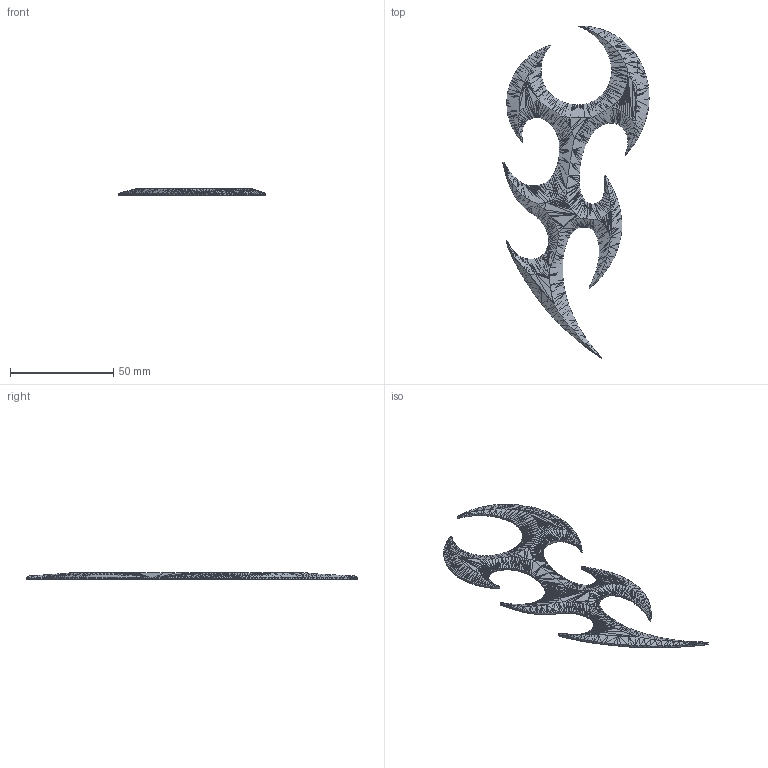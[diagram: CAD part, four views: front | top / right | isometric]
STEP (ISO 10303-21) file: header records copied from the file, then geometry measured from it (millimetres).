
FILE_DESCRIPTION((''),'2;1');
FILE_NAME('detail valery', '2025-04-14T08:14:15', (''), (''), 'ImageToStl.com STEP Converter','', '');
FILE_SCHEMA(('AUTOMOTIVE_DESIGN_CC2'));
Length unit declared in the file: metre
Products named in the file (1): product0
Bounding box: 70.72 x 160.72 x 3.17 mm (x, y, z)
Surface area: 8997.4 mm2 (no closed solid volume)
Topology: 0 solids, 3970 shells, 3970 faces, 11910 edges, 1984 vertices
Faces by surface type: plane 3970
Entity records: 91336 total; most frequent: DIRECTION 19852, ORIENTED_EDGE 11910, EDGE_CURVE 11910, LINE 11910, VECTOR 11910, AXIS2_PLACEMENT_3D 3971, FACE_SURFACE 3970, PLANE 3970
